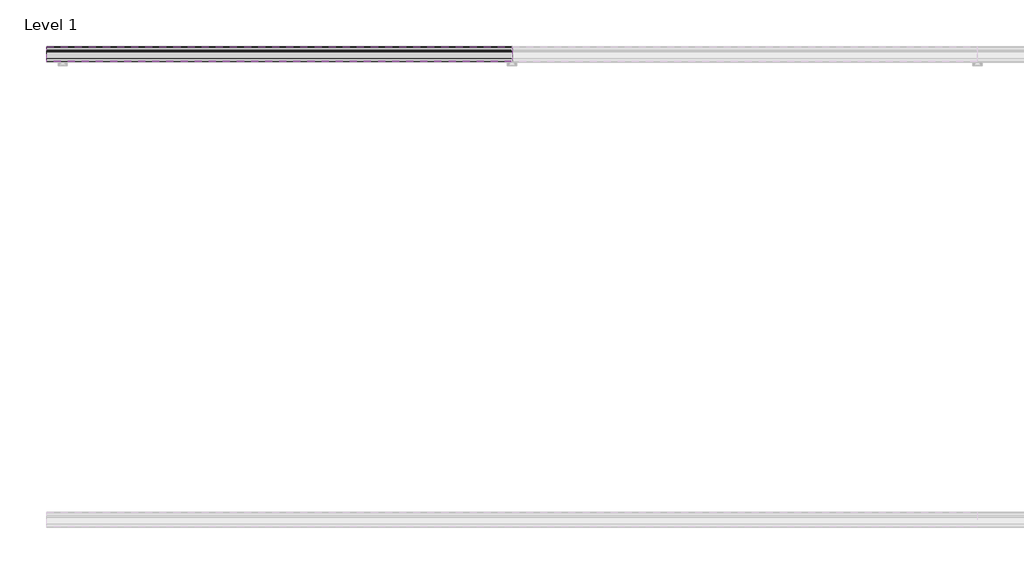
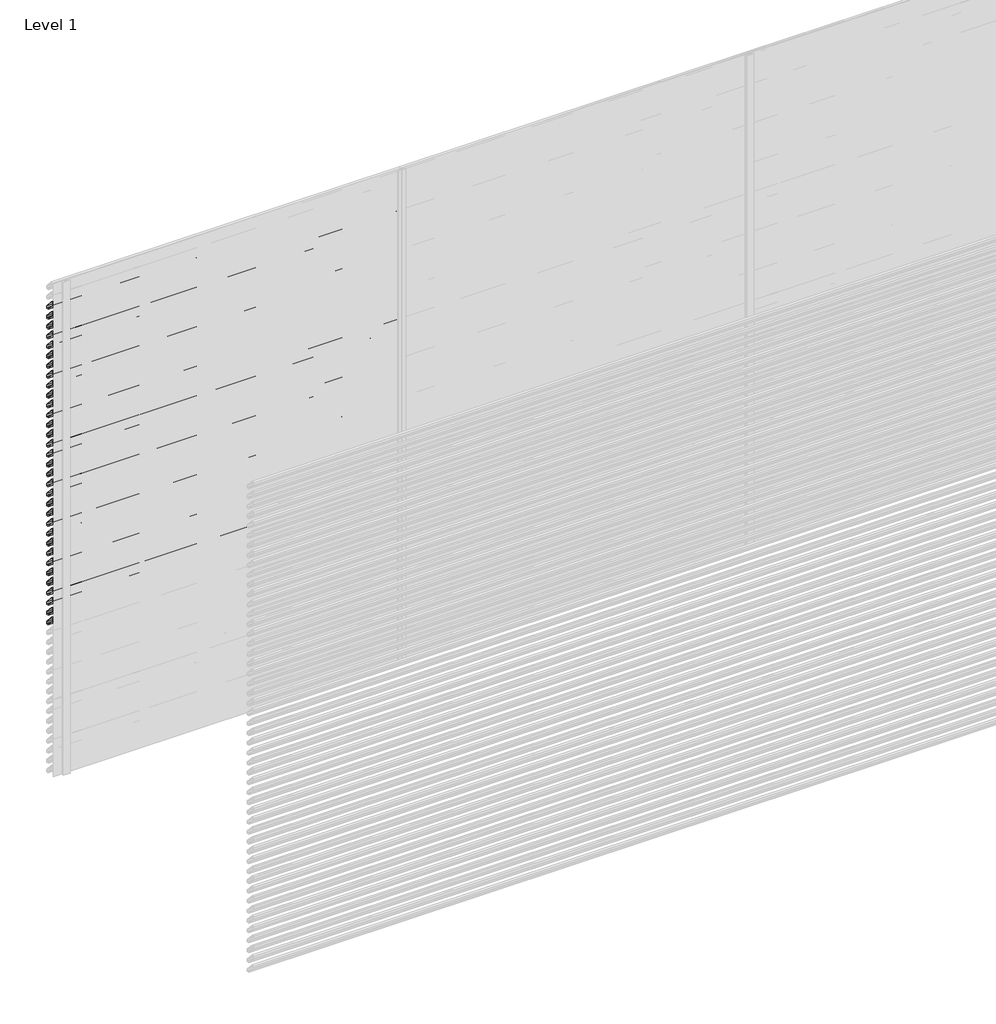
# One storey, part 96 of 153: 33 proxies.
"""IFC4 building model written with IfcOpenShell, lengths in millimetres."""

from ifc_helpers import new_model, si_unit, point, frame, frame_2d, origin, place, context, project, spatial, polyline, circle_curve, trimmed, segment, composite_curve, outline, extrude, element, save

model = new_model("IFC4")

# Units and contexts
model_context = context("Model", 3, world=origin())
ifc_project = project(units=[si_unit("LENGTHUNIT", "METRE", prefix="MILLI")], contexts=[model_context])

# Site, building, storey
site = spatial("IfcSite", under=ifc_project)
building = spatial("IfcBuilding", under=site)
storey = spatial("IfcBuildingStorey", under=building, Name="Level 1", Elevation=0.0)

# Proxies
placement = place(None, origin())
element("IfcBuildingElementProxy", 1, Name="Wall Sweeps", at=placement, inside=storey, context=model_context, shape_type="SweptSolid", body=[
    extrude(outline(composite_curve([segment(polyline([(43985.0540136, 2880.0), (43999.874191, 2878.7034025), (44049.0540136, 2825.0102749), (44049.0540136, 2813.6108187)]), True, "CONTINUOUS"), segment(trimmed(circle_curve(frame_2d((44045.7883652, 2813.897153)), 3.2781774), [point((44049.0540136, 2813.6108187))], [point((44046.4639442, 2810.6893438))], False, "CARTESIAN"), True, "CONTINUOUS"), segment(polyline([(44046.4639442, 2810.6893438), (44034.1895723, 2811.6282758), (43985.0540136, 2865.2730773), (43985.0540136, 2880.0)]), True, "CONTINUOUS")], self_intersect=False), holes=[composite_curve([segment(polyline([(43999.1621773, 2877.2599659), (43986.5540136, 2878.3630372), (43986.5540136, 2865.856213), (44034.8952036, 2813.0786805), (44046.3312542, 2812.2038762)]), True, "CONTINUOUS"), segment(trimmed(circle_curve(frame_2d((44045.7883652, 2813.897153)), 1.7781774), [point((44046.3312542, 2812.2038762))], [point((44047.5540136, 2813.6864389))], True, "CARTESIAN"), True, "CONTINUOUS"), segment(polyline([(44047.5540136, 2813.6864389), (44047.5540136, 2824.4271392), (43999.1621773, 2877.2599659)]), True, "CONTINUOUS")], self_intersect=False)]), frame((44966.6208097, 0.0, 0.0), z_axis=(1.0, 0.0, 0.0), x_axis=(0.0, 1.0, 0.0)), (0.0, 0.0, 1.0), 2000.0000001),
])
element("IfcBuildingElementProxy", 2, Name="Wall Sweeps", at=placement, inside=storey, context=model_context, shape_type="SweptSolid", body=[
    extrude(outline(composite_curve([segment(polyline([(43985.0540136, 2820.0), (43999.874191, 2818.7034025), (44049.0540136, 2765.0102749), (44049.0540136, 2753.6108187)]), True, "CONTINUOUS"), segment(trimmed(circle_curve(frame_2d((44045.7883652, 2753.897153)), 3.2781774), [point((44049.0540136, 2753.6108187))], [point((44046.4639442, 2750.6893438))], False, "CARTESIAN"), True, "CONTINUOUS"), segment(polyline([(44046.4639442, 2750.6893438), (44034.1895723, 2751.6282758), (43985.0540136, 2805.2730773), (43985.0540136, 2820.0)]), True, "CONTINUOUS")], self_intersect=False), holes=[composite_curve([segment(polyline([(43999.1621773, 2817.2599659), (43986.5540136, 2818.3630372), (43986.5540136, 2805.856213), (44034.8952036, 2753.0786805), (44046.3312542, 2752.2038762)]), True, "CONTINUOUS"), segment(trimmed(circle_curve(frame_2d((44045.7883652, 2753.897153)), 1.7781774), [point((44046.3312542, 2752.2038762))], [point((44047.5540136, 2753.6864389))], True, "CARTESIAN"), True, "CONTINUOUS"), segment(polyline([(44047.5540136, 2753.6864389), (44047.5540136, 2764.4271392), (43999.1621773, 2817.2599659)]), True, "CONTINUOUS")], self_intersect=False)]), frame((44966.6208097, 0.0, 0.0), z_axis=(1.0, 0.0, 0.0), x_axis=(0.0, 1.0, 0.0)), (0.0, 0.0, 1.0), 2000.0000001),
])
element("IfcBuildingElementProxy", 3, Name="Wall Sweeps", at=placement, inside=storey, context=model_context, shape_type="SweptSolid", body=[
    extrude(outline(composite_curve([segment(polyline([(43985.0540136, 2760.0), (43999.874191, 2758.7034025), (44049.0540136, 2705.0102749), (44049.0540136, 2693.6108187)]), True, "CONTINUOUS"), segment(trimmed(circle_curve(frame_2d((44045.7883652, 2693.897153)), 3.2781774), [point((44049.0540136, 2693.6108187))], [point((44046.4639442, 2690.6893438))], False, "CARTESIAN"), True, "CONTINUOUS"), segment(polyline([(44046.4639442, 2690.6893438), (44034.1895723, 2691.6282758), (43985.0540136, 2745.2730773), (43985.0540136, 2760.0)]), True, "CONTINUOUS")], self_intersect=False), holes=[composite_curve([segment(polyline([(43999.1621773, 2757.2599659), (43986.5540136, 2758.3630372), (43986.5540136, 2745.856213), (44034.8952036, 2693.0786805), (44046.3312542, 2692.2038762)]), True, "CONTINUOUS"), segment(trimmed(circle_curve(frame_2d((44045.7883652, 2693.897153)), 1.7781774), [point((44046.3312542, 2692.2038762))], [point((44047.5540136, 2693.6864389))], True, "CARTESIAN"), True, "CONTINUOUS"), segment(polyline([(44047.5540136, 2693.6864389), (44047.5540136, 2704.4271392), (43999.1621773, 2757.2599659)]), True, "CONTINUOUS")], self_intersect=False)]), frame((44966.6208097, 0.0, 0.0), z_axis=(1.0, 0.0, 0.0), x_axis=(0.0, 1.0, 0.0)), (0.0, 0.0, 1.0), 2000.0000001),
])
element("IfcBuildingElementProxy", 4, Name="Wall Sweeps", at=placement, inside=storey, context=model_context, shape_type="SweptSolid", body=[
    extrude(outline(composite_curve([segment(polyline([(43985.0540136, 2700.0), (43999.874191, 2698.7034025), (44049.0540136, 2645.0102749), (44049.0540136, 2633.6108187)]), True, "CONTINUOUS"), segment(trimmed(circle_curve(frame_2d((44045.7883652, 2633.897153)), 3.2781774), [point((44049.0540136, 2633.6108187))], [point((44046.4639442, 2630.6893438))], False, "CARTESIAN"), True, "CONTINUOUS"), segment(polyline([(44046.4639442, 2630.6893438), (44034.1895723, 2631.6282758), (43985.0540136, 2685.2730773), (43985.0540136, 2700.0)]), True, "CONTINUOUS")], self_intersect=False), holes=[composite_curve([segment(polyline([(43999.1621773, 2697.2599659), (43986.5540136, 2698.3630372), (43986.5540136, 2685.856213), (44034.8952036, 2633.0786805), (44046.3312542, 2632.2038762)]), True, "CONTINUOUS"), segment(trimmed(circle_curve(frame_2d((44045.7883652, 2633.897153)), 1.7781774), [point((44046.3312542, 2632.2038762))], [point((44047.5540136, 2633.6864389))], True, "CARTESIAN"), True, "CONTINUOUS"), segment(polyline([(44047.5540136, 2633.6864389), (44047.5540136, 2644.4271392), (43999.1621773, 2697.2599659)]), True, "CONTINUOUS")], self_intersect=False)]), frame((44966.6208097, 0.0, 0.0), z_axis=(1.0, 0.0, 0.0), x_axis=(0.0, 1.0, 0.0)), (0.0, 0.0, 1.0), 2000.0000001),
])
element("IfcBuildingElementProxy", 5, Name="Wall Sweeps", at=placement, inside=storey, context=model_context, shape_type="SweptSolid", body=[
    extrude(outline(composite_curve([segment(polyline([(43985.0540136, 2640.0), (43999.874191, 2638.7034025), (44049.0540136, 2585.0102749), (44049.0540136, 2573.6108187)]), True, "CONTINUOUS"), segment(trimmed(circle_curve(frame_2d((44045.7883652, 2573.897153)), 3.2781774), [point((44049.0540136, 2573.6108187))], [point((44046.4639442, 2570.6893438))], False, "CARTESIAN"), True, "CONTINUOUS"), segment(polyline([(44046.4639442, 2570.6893438), (44034.1895723, 2571.6282758), (43985.0540136, 2625.2730773), (43985.0540136, 2640.0)]), True, "CONTINUOUS")], self_intersect=False), holes=[composite_curve([segment(polyline([(43999.1621773, 2637.2599659), (43986.5540136, 2638.3630372), (43986.5540136, 2625.856213), (44034.8952036, 2573.0786805), (44046.3312542, 2572.2038762)]), True, "CONTINUOUS"), segment(trimmed(circle_curve(frame_2d((44045.7883652, 2573.897153)), 1.7781774), [point((44046.3312542, 2572.2038762))], [point((44047.5540136, 2573.6864389))], True, "CARTESIAN"), True, "CONTINUOUS"), segment(polyline([(44047.5540136, 2573.6864389), (44047.5540136, 2584.4271392), (43999.1621773, 2637.2599659)]), True, "CONTINUOUS")], self_intersect=False)]), frame((44966.6208097, 0.0, 0.0), z_axis=(1.0, 0.0, 0.0), x_axis=(0.0, 1.0, 0.0)), (0.0, 0.0, 1.0), 2000.0000001),
])
element("IfcBuildingElementProxy", 6, Name="Wall Sweeps", at=placement, inside=storey, context=model_context, shape_type="SweptSolid", body=[
    extrude(outline(composite_curve([segment(polyline([(43985.0540136, 2580.0), (43999.874191, 2578.7034025), (44049.0540136, 2525.0102749), (44049.0540136, 2513.6108187)]), True, "CONTINUOUS"), segment(trimmed(circle_curve(frame_2d((44045.7883652, 2513.897153)), 3.2781774), [point((44049.0540136, 2513.6108187))], [point((44046.4639442, 2510.6893438))], False, "CARTESIAN"), True, "CONTINUOUS"), segment(polyline([(44046.4639442, 2510.6893438), (44034.1895723, 2511.6282758), (43985.0540136, 2565.2730773), (43985.0540136, 2580.0)]), True, "CONTINUOUS")], self_intersect=False), holes=[composite_curve([segment(polyline([(43999.1621773, 2577.2599659), (43986.5540136, 2578.3630372), (43986.5540136, 2565.856213), (44034.8952036, 2513.0786805), (44046.3312542, 2512.2038762)]), True, "CONTINUOUS"), segment(trimmed(circle_curve(frame_2d((44045.7883652, 2513.897153)), 1.7781774), [point((44046.3312542, 2512.2038762))], [point((44047.5540136, 2513.6864389))], True, "CARTESIAN"), True, "CONTINUOUS"), segment(polyline([(44047.5540136, 2513.6864389), (44047.5540136, 2524.4271392), (43999.1621773, 2577.2599659)]), True, "CONTINUOUS")], self_intersect=False)]), frame((44966.6208097, 0.0, 0.0), z_axis=(1.0, 0.0, 0.0), x_axis=(0.0, 1.0, 0.0)), (0.0, 0.0, 1.0), 2000.0000001),
])
element("IfcBuildingElementProxy", 7, Name="Wall Sweeps", at=placement, inside=storey, context=model_context, shape_type="SweptSolid", body=[
    extrude(outline(composite_curve([segment(polyline([(43985.0540136, 2520.0), (43999.874191, 2518.7034025), (44049.0540136, 2465.0102749), (44049.0540136, 2453.6108187)]), True, "CONTINUOUS"), segment(trimmed(circle_curve(frame_2d((44045.7883652, 2453.897153)), 3.2781774), [point((44049.0540136, 2453.6108187))], [point((44046.4639442, 2450.6893438))], False, "CARTESIAN"), True, "CONTINUOUS"), segment(polyline([(44046.4639442, 2450.6893438), (44034.1895723, 2451.6282758), (43985.0540136, 2505.2730773), (43985.0540136, 2520.0)]), True, "CONTINUOUS")], self_intersect=False), holes=[composite_curve([segment(polyline([(43999.1621773, 2517.2599659), (43986.5540136, 2518.3630372), (43986.5540136, 2505.856213), (44034.8952036, 2453.0786805), (44046.3312542, 2452.2038762)]), True, "CONTINUOUS"), segment(trimmed(circle_curve(frame_2d((44045.7883652, 2453.897153)), 1.7781774), [point((44046.3312542, 2452.2038762))], [point((44047.5540136, 2453.6864389))], True, "CARTESIAN"), True, "CONTINUOUS"), segment(polyline([(44047.5540136, 2453.6864389), (44047.5540136, 2464.4271392), (43999.1621773, 2517.2599659)]), True, "CONTINUOUS")], self_intersect=False)]), frame((44966.6208097, 0.0, 0.0), z_axis=(1.0, 0.0, 0.0), x_axis=(0.0, 1.0, 0.0)), (0.0, 0.0, 1.0), 2000.0000001),
])
element("IfcBuildingElementProxy", 8, Name="Wall Sweeps", at=placement, inside=storey, context=model_context, shape_type="SweptSolid", body=[
    extrude(outline(composite_curve([segment(polyline([(43985.0540136, 2460.0), (43999.874191, 2458.7034025), (44049.0540136, 2405.0102749), (44049.0540136, 2393.6108187)]), True, "CONTINUOUS"), segment(trimmed(circle_curve(frame_2d((44045.7883652, 2393.897153)), 3.2781774), [point((44049.0540136, 2393.6108187))], [point((44046.4639442, 2390.6893438))], False, "CARTESIAN"), True, "CONTINUOUS"), segment(polyline([(44046.4639442, 2390.6893438), (44034.1895723, 2391.6282758), (43985.0540136, 2445.2730773), (43985.0540136, 2460.0)]), True, "CONTINUOUS")], self_intersect=False), holes=[composite_curve([segment(polyline([(43999.1621773, 2457.2599659), (43986.5540136, 2458.3630372), (43986.5540136, 2445.856213), (44034.8952036, 2393.0786805), (44046.3312542, 2392.2038762)]), True, "CONTINUOUS"), segment(trimmed(circle_curve(frame_2d((44045.7883652, 2393.897153)), 1.7781774), [point((44046.3312542, 2392.2038762))], [point((44047.5540136, 2393.6864389))], True, "CARTESIAN"), True, "CONTINUOUS"), segment(polyline([(44047.5540136, 2393.6864389), (44047.5540136, 2404.4271392), (43999.1621773, 2457.2599659)]), True, "CONTINUOUS")], self_intersect=False)]), frame((44966.6208097, 0.0, 0.0), z_axis=(1.0, 0.0, 0.0), x_axis=(0.0, 1.0, 0.0)), (0.0, 0.0, 1.0), 2000.0000001),
])
element("IfcBuildingElementProxy", 9, Name="Wall Sweeps", at=placement, inside=storey, context=model_context, shape_type="SweptSolid", body=[
    extrude(outline(composite_curve([segment(polyline([(43985.0540136, 2400.0), (43999.874191, 2398.7034025), (44049.0540136, 2345.0102749), (44049.0540136, 2333.6108187)]), True, "CONTINUOUS"), segment(trimmed(circle_curve(frame_2d((44045.7883652, 2333.897153)), 3.2781774), [point((44049.0540136, 2333.6108187))], [point((44046.4639442, 2330.6893438))], False, "CARTESIAN"), True, "CONTINUOUS"), segment(polyline([(44046.4639442, 2330.6893438), (44034.1895723, 2331.6282758), (43985.0540136, 2385.2730773), (43985.0540136, 2400.0)]), True, "CONTINUOUS")], self_intersect=False), holes=[composite_curve([segment(polyline([(43999.1621773, 2397.2599659), (43986.5540136, 2398.3630372), (43986.5540136, 2385.856213), (44034.8952036, 2333.0786805), (44046.3312542, 2332.2038762)]), True, "CONTINUOUS"), segment(trimmed(circle_curve(frame_2d((44045.7883652, 2333.897153)), 1.7781774), [point((44046.3312542, 2332.2038762))], [point((44047.5540136, 2333.6864389))], True, "CARTESIAN"), True, "CONTINUOUS"), segment(polyline([(44047.5540136, 2333.6864389), (44047.5540136, 2344.4271392), (43999.1621773, 2397.2599659)]), True, "CONTINUOUS")], self_intersect=False)]), frame((44966.6208097, 0.0, 0.0), z_axis=(1.0, 0.0, 0.0), x_axis=(0.0, 1.0, 0.0)), (0.0, 0.0, 1.0), 2000.0000001),
])
element("IfcBuildingElementProxy", 10, Name="Wall Sweeps", at=placement, inside=storey, context=model_context, shape_type="SweptSolid", body=[
    extrude(outline(composite_curve([segment(polyline([(43985.0540136, 2340.0), (43999.874191, 2338.7034025), (44049.0540136, 2285.0102749), (44049.0540136, 2273.6108187)]), True, "CONTINUOUS"), segment(trimmed(circle_curve(frame_2d((44045.7883652, 2273.897153)), 3.2781774), [point((44049.0540136, 2273.6108187))], [point((44046.4639442, 2270.6893438))], False, "CARTESIAN"), True, "CONTINUOUS"), segment(polyline([(44046.4639442, 2270.6893438), (44034.1895723, 2271.6282758), (43985.0540136, 2325.2730773), (43985.0540136, 2340.0)]), True, "CONTINUOUS")], self_intersect=False), holes=[composite_curve([segment(polyline([(43999.1621773, 2337.2599659), (43986.5540136, 2338.3630372), (43986.5540136, 2325.856213), (44034.8952036, 2273.0786805), (44046.3312542, 2272.2038762)]), True, "CONTINUOUS"), segment(trimmed(circle_curve(frame_2d((44045.7883652, 2273.897153)), 1.7781774), [point((44046.3312542, 2272.2038762))], [point((44047.5540136, 2273.6864389))], True, "CARTESIAN"), True, "CONTINUOUS"), segment(polyline([(44047.5540136, 2273.6864389), (44047.5540136, 2284.4271392), (43999.1621773, 2337.2599659)]), True, "CONTINUOUS")], self_intersect=False)]), frame((44966.6208097, 0.0, 0.0), z_axis=(1.0, 0.0, 0.0), x_axis=(0.0, 1.0, 0.0)), (0.0, 0.0, 1.0), 2000.0000001),
])
element("IfcBuildingElementProxy", 11, Name="Wall Sweeps", at=placement, inside=storey, context=model_context, shape_type="SweptSolid", body=[
    extrude(outline(composite_curve([segment(polyline([(43985.0540136, 2280.0), (43999.874191, 2278.7034025), (44049.0540136, 2225.0102749), (44049.0540136, 2213.6108187)]), True, "CONTINUOUS"), segment(trimmed(circle_curve(frame_2d((44045.7883652, 2213.897153)), 3.2781774), [point((44049.0540136, 2213.6108187))], [point((44046.4639442, 2210.6893438))], False, "CARTESIAN"), True, "CONTINUOUS"), segment(polyline([(44046.4639442, 2210.6893438), (44034.1895723, 2211.6282758), (43985.0540136, 2265.2730773), (43985.0540136, 2280.0)]), True, "CONTINUOUS")], self_intersect=False), holes=[composite_curve([segment(polyline([(43999.1621773, 2277.2599659), (43986.5540136, 2278.3630372), (43986.5540136, 2265.856213), (44034.8952036, 2213.0786805), (44046.3312542, 2212.2038762)]), True, "CONTINUOUS"), segment(trimmed(circle_curve(frame_2d((44045.7883652, 2213.897153)), 1.7781774), [point((44046.3312542, 2212.2038762))], [point((44047.5540136, 2213.6864389))], True, "CARTESIAN"), True, "CONTINUOUS"), segment(polyline([(44047.5540136, 2213.6864389), (44047.5540136, 2224.4271392), (43999.1621773, 2277.2599659)]), True, "CONTINUOUS")], self_intersect=False)]), frame((44966.6208097, 0.0, 0.0), z_axis=(1.0, 0.0, 0.0), x_axis=(0.0, 1.0, 0.0)), (0.0, 0.0, 1.0), 2000.0000001),
])
element("IfcBuildingElementProxy", 12, Name="Wall Sweeps", at=placement, inside=storey, context=model_context, shape_type="SweptSolid", body=[
    extrude(outline(composite_curve([segment(polyline([(43985.0540136, 2220.0), (43999.874191, 2218.7034025), (44049.0540136, 2165.0102749), (44049.0540136, 2153.6108187)]), True, "CONTINUOUS"), segment(trimmed(circle_curve(frame_2d((44045.7883652, 2153.897153)), 3.2781774), [point((44049.0540136, 2153.6108187))], [point((44046.4639442, 2150.6893438))], False, "CARTESIAN"), True, "CONTINUOUS"), segment(polyline([(44046.4639442, 2150.6893438), (44034.1895723, 2151.6282758), (43985.0540136, 2205.2730773), (43985.0540136, 2220.0)]), True, "CONTINUOUS")], self_intersect=False), holes=[composite_curve([segment(polyline([(43999.1621773, 2217.2599659), (43986.5540136, 2218.3630372), (43986.5540136, 2205.856213), (44034.8952036, 2153.0786805), (44046.3312542, 2152.2038762)]), True, "CONTINUOUS"), segment(trimmed(circle_curve(frame_2d((44045.7883652, 2153.897153)), 1.7781774), [point((44046.3312542, 2152.2038762))], [point((44047.5540136, 2153.6864389))], True, "CARTESIAN"), True, "CONTINUOUS"), segment(polyline([(44047.5540136, 2153.6864389), (44047.5540136, 2164.4271392), (43999.1621773, 2217.2599659)]), True, "CONTINUOUS")], self_intersect=False)]), frame((44966.6208097, 0.0, 0.0), z_axis=(1.0, 0.0, 0.0), x_axis=(0.0, 1.0, 0.0)), (0.0, 0.0, 1.0), 2000.0000001),
])
element("IfcBuildingElementProxy", 13, Name="Wall Sweeps", at=placement, inside=storey, context=model_context, shape_type="SweptSolid", body=[
    extrude(outline(composite_curve([segment(polyline([(43985.0540136, 2160.0), (43999.874191, 2158.7034025), (44049.0540136, 2105.0102749), (44049.0540136, 2093.6108187)]), True, "CONTINUOUS"), segment(trimmed(circle_curve(frame_2d((44045.7883652, 2093.897153)), 3.2781774), [point((44049.0540136, 2093.6108187))], [point((44046.4639442, 2090.6893438))], False, "CARTESIAN"), True, "CONTINUOUS"), segment(polyline([(44046.4639442, 2090.6893438), (44034.1895723, 2091.6282758), (43985.0540136, 2145.2730773), (43985.0540136, 2160.0)]), True, "CONTINUOUS")], self_intersect=False), holes=[composite_curve([segment(polyline([(43999.1621773, 2157.2599659), (43986.5540136, 2158.3630372), (43986.5540136, 2145.856213), (44034.8952036, 2093.0786805), (44046.3312542, 2092.2038762)]), True, "CONTINUOUS"), segment(trimmed(circle_curve(frame_2d((44045.7883652, 2093.897153)), 1.7781774), [point((44046.3312542, 2092.2038762))], [point((44047.5540136, 2093.6864389))], True, "CARTESIAN"), True, "CONTINUOUS"), segment(polyline([(44047.5540136, 2093.6864389), (44047.5540136, 2104.4271392), (43999.1621773, 2157.2599659)]), True, "CONTINUOUS")], self_intersect=False)]), frame((44966.6208097, 0.0, 0.0), z_axis=(1.0, 0.0, 0.0), x_axis=(0.0, 1.0, 0.0)), (0.0, 0.0, 1.0), 2000.0000001),
])
element("IfcBuildingElementProxy", 14, Name="Wall Sweeps", at=placement, inside=storey, context=model_context, shape_type="SweptSolid", body=[
    extrude(outline(composite_curve([segment(polyline([(43985.0540136, 2100.0), (43999.874191, 2098.7034025), (44049.0540136, 2045.0102749), (44049.0540136, 2033.6108187)]), True, "CONTINUOUS"), segment(trimmed(circle_curve(frame_2d((44045.7883652, 2033.897153)), 3.2781774), [point((44049.0540136, 2033.6108187))], [point((44046.4639442, 2030.6893438))], False, "CARTESIAN"), True, "CONTINUOUS"), segment(polyline([(44046.4639442, 2030.6893438), (44034.1895723, 2031.6282758), (43985.0540136, 2085.2730773), (43985.0540136, 2100.0)]), True, "CONTINUOUS")], self_intersect=False), holes=[composite_curve([segment(polyline([(43999.1621773, 2097.2599659), (43986.5540136, 2098.3630372), (43986.5540136, 2085.856213), (44034.8952036, 2033.0786805), (44046.3312542, 2032.2038762)]), True, "CONTINUOUS"), segment(trimmed(circle_curve(frame_2d((44045.7883652, 2033.897153)), 1.7781774), [point((44046.3312542, 2032.2038762))], [point((44047.5540136, 2033.6864389))], True, "CARTESIAN"), True, "CONTINUOUS"), segment(polyline([(44047.5540136, 2033.6864389), (44047.5540136, 2044.4271392), (43999.1621773, 2097.2599659)]), True, "CONTINUOUS")], self_intersect=False)]), frame((44966.6208097, 0.0, 0.0), z_axis=(1.0, 0.0, 0.0), x_axis=(0.0, 1.0, 0.0)), (0.0, 0.0, 1.0), 2000.0000001),
])
element("IfcBuildingElementProxy", 15, Name="Wall Sweeps", at=placement, inside=storey, context=model_context, shape_type="SweptSolid", body=[
    extrude(outline(composite_curve([segment(polyline([(43985.0540136, 2040.0), (43999.874191, 2038.7034025), (44049.0540136, 1985.0102749), (44049.0540136, 1973.6108187)]), True, "CONTINUOUS"), segment(trimmed(circle_curve(frame_2d((44045.7883652, 1973.897153)), 3.2781774), [point((44049.0540136, 1973.6108187))], [point((44046.4639442, 1970.6893438))], False, "CARTESIAN"), True, "CONTINUOUS"), segment(polyline([(44046.4639442, 1970.6893438), (44034.1895723, 1971.6282758), (43985.0540136, 2025.2730773), (43985.0540136, 2040.0)]), True, "CONTINUOUS")], self_intersect=False), holes=[composite_curve([segment(polyline([(43999.1621773, 2037.2599659), (43986.5540136, 2038.3630372), (43986.5540136, 2025.856213), (44034.8952036, 1973.0786805), (44046.3312542, 1972.2038762)]), True, "CONTINUOUS"), segment(trimmed(circle_curve(frame_2d((44045.7883652, 1973.897153)), 1.7781774), [point((44046.3312542, 1972.2038762))], [point((44047.5540136, 1973.6864389))], True, "CARTESIAN"), True, "CONTINUOUS"), segment(polyline([(44047.5540136, 1973.6864389), (44047.5540136, 1984.4271392), (43999.1621773, 2037.2599659)]), True, "CONTINUOUS")], self_intersect=False)]), frame((44966.6208097, 0.0, 0.0), z_axis=(1.0, 0.0, 0.0), x_axis=(0.0, 1.0, 0.0)), (0.0, 0.0, 1.0), 2000.0000001),
])
element("IfcBuildingElementProxy", 16, Name="Wall Sweeps", at=placement, inside=storey, context=model_context, shape_type="SweptSolid", body=[
    extrude(outline(composite_curve([segment(polyline([(43985.0540136, 1980.0), (43999.874191, 1978.7034025), (44049.0540136, 1925.0102749), (44049.0540136, 1913.6108187)]), True, "CONTINUOUS"), segment(trimmed(circle_curve(frame_2d((44045.7883652, 1913.897153)), 3.2781774), [point((44049.0540136, 1913.6108187))], [point((44046.4639442, 1910.6893438))], False, "CARTESIAN"), True, "CONTINUOUS"), segment(polyline([(44046.4639442, 1910.6893438), (44034.1895723, 1911.6282758), (43985.0540136, 1965.2730773), (43985.0540136, 1980.0)]), True, "CONTINUOUS")], self_intersect=False), holes=[composite_curve([segment(polyline([(43999.1621773, 1977.2599659), (43986.5540136, 1978.3630372), (43986.5540136, 1965.856213), (44034.8952036, 1913.0786805), (44046.3312542, 1912.2038762)]), True, "CONTINUOUS"), segment(trimmed(circle_curve(frame_2d((44045.7883652, 1913.897153)), 1.7781774), [point((44046.3312542, 1912.2038762))], [point((44047.5540136, 1913.6864389))], True, "CARTESIAN"), True, "CONTINUOUS"), segment(polyline([(44047.5540136, 1913.6864389), (44047.5540136, 1924.4271392), (43999.1621773, 1977.2599659)]), True, "CONTINUOUS")], self_intersect=False)]), frame((44966.6208097, 0.0, 0.0), z_axis=(1.0, 0.0, 0.0), x_axis=(0.0, 1.0, 0.0)), (0.0, 0.0, 1.0), 2000.0000001),
])
element("IfcBuildingElementProxy", 17, Name="Wall Sweeps", at=placement, inside=storey, context=model_context, shape_type="SweptSolid", body=[
    extrude(outline(composite_curve([segment(polyline([(43985.0540136, 1920.0), (43999.874191, 1918.7034025), (44049.0540136, 1865.0102749), (44049.0540136, 1853.6108187)]), True, "CONTINUOUS"), segment(trimmed(circle_curve(frame_2d((44045.7883652, 1853.897153)), 3.2781774), [point((44049.0540136, 1853.6108187))], [point((44046.4639442, 1850.6893438))], False, "CARTESIAN"), True, "CONTINUOUS"), segment(polyline([(44046.4639442, 1850.6893438), (44034.1895723, 1851.6282758), (43985.0540136, 1905.2730773), (43985.0540136, 1920.0)]), True, "CONTINUOUS")], self_intersect=False), holes=[composite_curve([segment(polyline([(43999.1621773, 1917.2599659), (43986.5540136, 1918.3630372), (43986.5540136, 1905.856213), (44034.8952036, 1853.0786805), (44046.3312542, 1852.2038762)]), True, "CONTINUOUS"), segment(trimmed(circle_curve(frame_2d((44045.7883652, 1853.897153)), 1.7781774), [point((44046.3312542, 1852.2038762))], [point((44047.5540136, 1853.6864389))], True, "CARTESIAN"), True, "CONTINUOUS"), segment(polyline([(44047.5540136, 1853.6864389), (44047.5540136, 1864.4271392), (43999.1621773, 1917.2599659)]), True, "CONTINUOUS")], self_intersect=False)]), frame((44966.6208097, 0.0, 0.0), z_axis=(1.0, 0.0, 0.0), x_axis=(0.0, 1.0, 0.0)), (0.0, 0.0, 1.0), 2000.0000001),
])
element("IfcBuildingElementProxy", 18, Name="Wall Sweeps", at=placement, inside=storey, context=model_context, shape_type="SweptSolid", body=[
    extrude(outline(composite_curve([segment(polyline([(43985.0540136, 1860.0), (43999.874191, 1858.7034025), (44049.0540136, 1805.0102749), (44049.0540136, 1793.6108187)]), True, "CONTINUOUS"), segment(trimmed(circle_curve(frame_2d((44045.7883652, 1793.897153)), 3.2781774), [point((44049.0540136, 1793.6108187))], [point((44046.4639442, 1790.6893438))], False, "CARTESIAN"), True, "CONTINUOUS"), segment(polyline([(44046.4639442, 1790.6893438), (44034.1895723, 1791.6282758), (43985.0540136, 1845.2730773), (43985.0540136, 1860.0)]), True, "CONTINUOUS")], self_intersect=False), holes=[composite_curve([segment(polyline([(43999.1621773, 1857.2599659), (43986.5540136, 1858.3630372), (43986.5540136, 1845.856213), (44034.8952036, 1793.0786805), (44046.3312542, 1792.2038762)]), True, "CONTINUOUS"), segment(trimmed(circle_curve(frame_2d((44045.7883652, 1793.897153)), 1.7781774), [point((44046.3312542, 1792.2038762))], [point((44047.5540136, 1793.6864389))], True, "CARTESIAN"), True, "CONTINUOUS"), segment(polyline([(44047.5540136, 1793.6864389), (44047.5540136, 1804.4271392), (43999.1621773, 1857.2599659)]), True, "CONTINUOUS")], self_intersect=False)]), frame((44966.6208097, 0.0, 0.0), z_axis=(1.0, 0.0, 0.0), x_axis=(0.0, 1.0, 0.0)), (0.0, 0.0, 1.0), 2000.0000001),
])
element("IfcBuildingElementProxy", 19, Name="Wall Sweeps", at=placement, inside=storey, context=model_context, shape_type="SweptSolid", body=[
    extrude(outline(composite_curve([segment(polyline([(43985.0540136, 1800.0), (43999.874191, 1798.7034025), (44049.0540136, 1745.0102749), (44049.0540136, 1733.6108187)]), True, "CONTINUOUS"), segment(trimmed(circle_curve(frame_2d((44045.7883652, 1733.897153)), 3.2781774), [point((44049.0540136, 1733.6108187))], [point((44046.4639442, 1730.6893438))], False, "CARTESIAN"), True, "CONTINUOUS"), segment(polyline([(44046.4639442, 1730.6893438), (44034.1895723, 1731.6282758), (43985.0540136, 1785.2730773), (43985.0540136, 1800.0)]), True, "CONTINUOUS")], self_intersect=False), holes=[composite_curve([segment(polyline([(43999.1621773, 1797.2599659), (43986.5540136, 1798.3630372), (43986.5540136, 1785.856213), (44034.8952036, 1733.0786805), (44046.3312542, 1732.2038762)]), True, "CONTINUOUS"), segment(trimmed(circle_curve(frame_2d((44045.7883652, 1733.897153)), 1.7781774), [point((44046.3312542, 1732.2038762))], [point((44047.5540136, 1733.6864389))], True, "CARTESIAN"), True, "CONTINUOUS"), segment(polyline([(44047.5540136, 1733.6864389), (44047.5540136, 1744.4271392), (43999.1621773, 1797.2599659)]), True, "CONTINUOUS")], self_intersect=False)]), frame((44966.6208097, 0.0, 0.0), z_axis=(1.0, 0.0, 0.0), x_axis=(0.0, 1.0, 0.0)), (0.0, 0.0, 1.0), 2000.0000001),
])
element("IfcBuildingElementProxy", 20, Name="Wall Sweeps", at=placement, inside=storey, context=model_context, shape_type="SweptSolid", body=[
    extrude(outline(composite_curve([segment(polyline([(43985.0540136, 1740.0), (43999.874191, 1738.7034025), (44049.0540136, 1685.0102749), (44049.0540136, 1673.6108187)]), True, "CONTINUOUS"), segment(trimmed(circle_curve(frame_2d((44045.7883652, 1673.897153)), 3.2781774), [point((44049.0540136, 1673.6108187))], [point((44046.4639442, 1670.6893438))], False, "CARTESIAN"), True, "CONTINUOUS"), segment(polyline([(44046.4639442, 1670.6893438), (44034.1895723, 1671.6282758), (43985.0540136, 1725.2730773), (43985.0540136, 1740.0)]), True, "CONTINUOUS")], self_intersect=False), holes=[composite_curve([segment(polyline([(43999.1621773, 1737.2599659), (43986.5540136, 1738.3630372), (43986.5540136, 1725.856213), (44034.8952036, 1673.0786805), (44046.3312542, 1672.2038762)]), True, "CONTINUOUS"), segment(trimmed(circle_curve(frame_2d((44045.7883652, 1673.897153)), 1.7781774), [point((44046.3312542, 1672.2038762))], [point((44047.5540136, 1673.6864389))], True, "CARTESIAN"), True, "CONTINUOUS"), segment(polyline([(44047.5540136, 1673.6864389), (44047.5540136, 1684.4271392), (43999.1621773, 1737.2599659)]), True, "CONTINUOUS")], self_intersect=False)]), frame((44966.6208097, 0.0, 0.0), z_axis=(1.0, 0.0, 0.0), x_axis=(0.0, 1.0, 0.0)), (0.0, 0.0, 1.0), 2000.0000001),
])
element("IfcBuildingElementProxy", 21, Name="Wall Sweeps", at=placement, inside=storey, context=model_context, shape_type="SweptSolid", body=[
    extrude(outline(composite_curve([segment(polyline([(43985.0540136, 1680.0), (43999.874191, 1678.7034025), (44049.0540136, 1625.0102749), (44049.0540136, 1613.6108187)]), True, "CONTINUOUS"), segment(trimmed(circle_curve(frame_2d((44045.7883652, 1613.897153)), 3.2781774), [point((44049.0540136, 1613.6108187))], [point((44046.4639442, 1610.6893438))], False, "CARTESIAN"), True, "CONTINUOUS"), segment(polyline([(44046.4639442, 1610.6893438), (44034.1895723, 1611.6282758), (43985.0540136, 1665.2730773), (43985.0540136, 1680.0)]), True, "CONTINUOUS")], self_intersect=False), holes=[composite_curve([segment(polyline([(43999.1621773, 1677.2599659), (43986.5540136, 1678.3630372), (43986.5540136, 1665.856213), (44034.8952036, 1613.0786805), (44046.3312542, 1612.2038762)]), True, "CONTINUOUS"), segment(trimmed(circle_curve(frame_2d((44045.7883652, 1613.897153)), 1.7781774), [point((44046.3312542, 1612.2038762))], [point((44047.5540136, 1613.6864389))], True, "CARTESIAN"), True, "CONTINUOUS"), segment(polyline([(44047.5540136, 1613.6864389), (44047.5540136, 1624.4271392), (43999.1621773, 1677.2599659)]), True, "CONTINUOUS")], self_intersect=False)]), frame((44966.6208097, 0.0, 0.0), z_axis=(1.0, 0.0, 0.0), x_axis=(0.0, 1.0, 0.0)), (0.0, 0.0, 1.0), 2000.0000001),
])
element("IfcBuildingElementProxy", 22, Name="Wall Sweeps", at=placement, inside=storey, context=model_context, shape_type="SweptSolid", body=[
    extrude(outline(composite_curve([segment(polyline([(43985.0540136, 1620.0), (43999.874191, 1618.7034025), (44049.0540136, 1565.0102749), (44049.0540136, 1553.6108187)]), True, "CONTINUOUS"), segment(trimmed(circle_curve(frame_2d((44045.7883652, 1553.897153)), 3.2781774), [point((44049.0540136, 1553.6108187))], [point((44046.4639442, 1550.6893438))], False, "CARTESIAN"), True, "CONTINUOUS"), segment(polyline([(44046.4639442, 1550.6893438), (44034.1895723, 1551.6282758), (43985.0540136, 1605.2730773), (43985.0540136, 1620.0)]), True, "CONTINUOUS")], self_intersect=False), holes=[composite_curve([segment(polyline([(43999.1621773, 1617.2599659), (43986.5540136, 1618.3630372), (43986.5540136, 1605.856213), (44034.8952036, 1553.0786805), (44046.3312542, 1552.2038762)]), True, "CONTINUOUS"), segment(trimmed(circle_curve(frame_2d((44045.7883652, 1553.897153)), 1.7781774), [point((44046.3312542, 1552.2038762))], [point((44047.5540136, 1553.6864389))], True, "CARTESIAN"), True, "CONTINUOUS"), segment(polyline([(44047.5540136, 1553.6864389), (44047.5540136, 1564.4271392), (43999.1621773, 1617.2599659)]), True, "CONTINUOUS")], self_intersect=False)]), frame((44966.6208097, 0.0, 0.0), z_axis=(1.0, 0.0, 0.0), x_axis=(0.0, 1.0, 0.0)), (0.0, 0.0, 1.0), 2000.0000001),
])
element("IfcBuildingElementProxy", 23, Name="Wall Sweeps", at=placement, inside=storey, context=model_context, shape_type="SweptSolid", body=[
    extrude(outline(composite_curve([segment(polyline([(43985.0540136, 1560.0), (43999.874191, 1558.7034025), (44049.0540136, 1505.0102749), (44049.0540136, 1493.6108187)]), True, "CONTINUOUS"), segment(trimmed(circle_curve(frame_2d((44045.7883652, 1493.897153)), 3.2781774), [point((44049.0540136, 1493.6108187))], [point((44046.4639442, 1490.6893438))], False, "CARTESIAN"), True, "CONTINUOUS"), segment(polyline([(44046.4639442, 1490.6893438), (44034.1895723, 1491.6282758), (43985.0540136, 1545.2730773), (43985.0540136, 1560.0)]), True, "CONTINUOUS")], self_intersect=False), holes=[composite_curve([segment(polyline([(43999.1621773, 1557.2599659), (43986.5540136, 1558.3630372), (43986.5540136, 1545.856213), (44034.8952036, 1493.0786805), (44046.3312542, 1492.2038762)]), True, "CONTINUOUS"), segment(trimmed(circle_curve(frame_2d((44045.7883652, 1493.897153)), 1.7781774), [point((44046.3312542, 1492.2038762))], [point((44047.5540136, 1493.6864389))], True, "CARTESIAN"), True, "CONTINUOUS"), segment(polyline([(44047.5540136, 1493.6864389), (44047.5540136, 1504.4271392), (43999.1621773, 1557.2599659)]), True, "CONTINUOUS")], self_intersect=False)]), frame((44966.6208097, 0.0, 0.0), z_axis=(1.0, 0.0, 0.0), x_axis=(0.0, 1.0, 0.0)), (0.0, 0.0, 1.0), 2000.0000001),
])
element("IfcBuildingElementProxy", 24, Name="Wall Sweeps", at=placement, inside=storey, context=model_context, shape_type="SweptSolid", body=[
    extrude(outline(composite_curve([segment(polyline([(43985.0540136, 1500.0), (43999.874191, 1498.7034025), (44049.0540136, 1445.0102749), (44049.0540136, 1433.6108187)]), True, "CONTINUOUS"), segment(trimmed(circle_curve(frame_2d((44045.7883652, 1433.897153)), 3.2781774), [point((44049.0540136, 1433.6108187))], [point((44046.4639442, 1430.6893438))], False, "CARTESIAN"), True, "CONTINUOUS"), segment(polyline([(44046.4639442, 1430.6893438), (44034.1895723, 1431.6282758), (43985.0540136, 1485.2730773), (43985.0540136, 1500.0)]), True, "CONTINUOUS")], self_intersect=False), holes=[composite_curve([segment(polyline([(43999.1621773, 1497.2599659), (43986.5540136, 1498.3630372), (43986.5540136, 1485.856213), (44034.8952036, 1433.0786805), (44046.3312542, 1432.2038762)]), True, "CONTINUOUS"), segment(trimmed(circle_curve(frame_2d((44045.7883652, 1433.897153)), 1.7781774), [point((44046.3312542, 1432.2038762))], [point((44047.5540136, 1433.6864389))], True, "CARTESIAN"), True, "CONTINUOUS"), segment(polyline([(44047.5540136, 1433.6864389), (44047.5540136, 1444.4271392), (43999.1621773, 1497.2599659)]), True, "CONTINUOUS")], self_intersect=False)]), frame((44966.6208097, 0.0, 0.0), z_axis=(1.0, 0.0, 0.0), x_axis=(0.0, 1.0, 0.0)), (0.0, 0.0, 1.0), 2000.0000001),
])
element("IfcBuildingElementProxy", 25, Name="Wall Sweeps", at=placement, inside=storey, context=model_context, shape_type="SweptSolid", body=[
    extrude(outline(composite_curve([segment(polyline([(43985.0540136, 1440.0), (43999.874191, 1438.7034025), (44049.0540136, 1385.0102749), (44049.0540136, 1373.6108187)]), True, "CONTINUOUS"), segment(trimmed(circle_curve(frame_2d((44045.7883652, 1373.897153)), 3.2781774), [point((44049.0540136, 1373.6108187))], [point((44046.4639442, 1370.6893438))], False, "CARTESIAN"), True, "CONTINUOUS"), segment(polyline([(44046.4639442, 1370.6893438), (44034.1895723, 1371.6282758), (43985.0540136, 1425.2730773), (43985.0540136, 1440.0)]), True, "CONTINUOUS")], self_intersect=False), holes=[composite_curve([segment(polyline([(43999.1621773, 1437.2599659), (43986.5540136, 1438.3630372), (43986.5540136, 1425.856213), (44034.8952036, 1373.0786805), (44046.3312542, 1372.2038762)]), True, "CONTINUOUS"), segment(trimmed(circle_curve(frame_2d((44045.7883652, 1373.897153)), 1.7781774), [point((44046.3312542, 1372.2038762))], [point((44047.5540136, 1373.6864389))], True, "CARTESIAN"), True, "CONTINUOUS"), segment(polyline([(44047.5540136, 1373.6864389), (44047.5540136, 1384.4271392), (43999.1621773, 1437.2599659)]), True, "CONTINUOUS")], self_intersect=False)]), frame((44966.6208097, 0.0, 0.0), z_axis=(1.0, 0.0, 0.0), x_axis=(0.0, 1.0, 0.0)), (0.0, 0.0, 1.0), 2000.0000001),
])
element("IfcBuildingElementProxy", 26, Name="Wall Sweeps", at=placement, inside=storey, context=model_context, shape_type="SweptSolid", body=[
    extrude(outline(composite_curve([segment(polyline([(43985.0540136, 1380.0), (43999.874191, 1378.7034025), (44049.0540136, 1325.0102749), (44049.0540136, 1313.6108187)]), True, "CONTINUOUS"), segment(trimmed(circle_curve(frame_2d((44045.7883652, 1313.897153)), 3.2781774), [point((44049.0540136, 1313.6108187))], [point((44046.4639442, 1310.6893438))], False, "CARTESIAN"), True, "CONTINUOUS"), segment(polyline([(44046.4639442, 1310.6893438), (44034.1895723, 1311.6282758), (43985.0540136, 1365.2730773), (43985.0540136, 1380.0)]), True, "CONTINUOUS")], self_intersect=False), holes=[composite_curve([segment(polyline([(43999.1621773, 1377.2599659), (43986.5540136, 1378.3630372), (43986.5540136, 1365.856213), (44034.8952036, 1313.0786805), (44046.3312542, 1312.2038762)]), True, "CONTINUOUS"), segment(trimmed(circle_curve(frame_2d((44045.7883652, 1313.897153)), 1.7781774), [point((44046.3312542, 1312.2038762))], [point((44047.5540136, 1313.6864389))], True, "CARTESIAN"), True, "CONTINUOUS"), segment(polyline([(44047.5540136, 1313.6864389), (44047.5540136, 1324.4271392), (43999.1621773, 1377.2599659)]), True, "CONTINUOUS")], self_intersect=False)]), frame((44966.6208097, 0.0, 0.0), z_axis=(1.0, 0.0, 0.0), x_axis=(0.0, 1.0, 0.0)), (0.0, 0.0, 1.0), 2000.0000001),
])
element("IfcBuildingElementProxy", 27, Name="Wall Sweeps", at=placement, inside=storey, context=model_context, shape_type="SweptSolid", body=[
    extrude(outline(composite_curve([segment(polyline([(43985.0540136, 1320.0), (43999.874191, 1318.7034025), (44049.0540136, 1265.0102749), (44049.0540136, 1253.6108187)]), True, "CONTINUOUS"), segment(trimmed(circle_curve(frame_2d((44045.7883652, 1253.897153)), 3.2781774), [point((44049.0540136, 1253.6108187))], [point((44046.4639442, 1250.6893438))], False, "CARTESIAN"), True, "CONTINUOUS"), segment(polyline([(44046.4639442, 1250.6893438), (44034.1895723, 1251.6282758), (43985.0540136, 1305.2730773), (43985.0540136, 1320.0)]), True, "CONTINUOUS")], self_intersect=False), holes=[composite_curve([segment(polyline([(43999.1621773, 1317.2599659), (43986.5540136, 1318.3630372), (43986.5540136, 1305.856213), (44034.8952036, 1253.0786805), (44046.3312542, 1252.2038762)]), True, "CONTINUOUS"), segment(trimmed(circle_curve(frame_2d((44045.7883652, 1253.897153)), 1.7781774), [point((44046.3312542, 1252.2038762))], [point((44047.5540136, 1253.6864389))], True, "CARTESIAN"), True, "CONTINUOUS"), segment(polyline([(44047.5540136, 1253.6864389), (44047.5540136, 1264.4271392), (43999.1621773, 1317.2599659)]), True, "CONTINUOUS")], self_intersect=False)]), frame((44966.6208097, 0.0, 0.0), z_axis=(1.0, 0.0, 0.0), x_axis=(0.0, 1.0, 0.0)), (0.0, 0.0, 1.0), 2000.0000001),
])
element("IfcBuildingElementProxy", 28, Name="Wall Sweeps", at=placement, inside=storey, context=model_context, shape_type="SweptSolid", body=[
    extrude(outline(composite_curve([segment(polyline([(43985.0540136, 1260.0), (43999.874191, 1258.7034025), (44049.0540136, 1205.0102749), (44049.0540136, 1193.6108187)]), True, "CONTINUOUS"), segment(trimmed(circle_curve(frame_2d((44045.7883652, 1193.897153)), 3.2781774), [point((44049.0540136, 1193.6108187))], [point((44046.4639442, 1190.6893438))], False, "CARTESIAN"), True, "CONTINUOUS"), segment(polyline([(44046.4639442, 1190.6893438), (44034.1895723, 1191.6282758), (43985.0540136, 1245.2730773), (43985.0540136, 1260.0)]), True, "CONTINUOUS")], self_intersect=False), holes=[composite_curve([segment(polyline([(43999.1621773, 1257.2599659), (43986.5540136, 1258.3630372), (43986.5540136, 1245.856213), (44034.8952036, 1193.0786805), (44046.3312542, 1192.2038762)]), True, "CONTINUOUS"), segment(trimmed(circle_curve(frame_2d((44045.7883652, 1193.897153)), 1.7781774), [point((44046.3312542, 1192.2038762))], [point((44047.5540136, 1193.6864389))], True, "CARTESIAN"), True, "CONTINUOUS"), segment(polyline([(44047.5540136, 1193.6864389), (44047.5540136, 1204.4271392), (43999.1621773, 1257.2599659)]), True, "CONTINUOUS")], self_intersect=False)]), frame((44966.6208097, 0.0, 0.0), z_axis=(1.0, 0.0, 0.0), x_axis=(0.0, 1.0, 0.0)), (0.0, 0.0, 1.0), 2000.0000001),
])
element("IfcBuildingElementProxy", 29, Name="Wall Sweeps", at=placement, inside=storey, context=model_context, shape_type="SweptSolid", body=[
    extrude(outline(composite_curve([segment(polyline([(43985.0540136, 1200.0), (43999.874191, 1198.7034025), (44049.0540136, 1145.0102749), (44049.0540136, 1133.6108187)]), True, "CONTINUOUS"), segment(trimmed(circle_curve(frame_2d((44045.7883652, 1133.897153)), 3.2781774), [point((44049.0540136, 1133.6108187))], [point((44046.4639442, 1130.6893438))], False, "CARTESIAN"), True, "CONTINUOUS"), segment(polyline([(44046.4639442, 1130.6893438), (44034.1895723, 1131.6282758), (43985.0540136, 1185.2730773), (43985.0540136, 1200.0)]), True, "CONTINUOUS")], self_intersect=False), holes=[composite_curve([segment(polyline([(43999.1621773, 1197.2599659), (43986.5540136, 1198.3630372), (43986.5540136, 1185.856213), (44034.8952036, 1133.0786805), (44046.3312542, 1132.2038762)]), True, "CONTINUOUS"), segment(trimmed(circle_curve(frame_2d((44045.7883652, 1133.897153)), 1.7781774), [point((44046.3312542, 1132.2038762))], [point((44047.5540136, 1133.6864389))], True, "CARTESIAN"), True, "CONTINUOUS"), segment(polyline([(44047.5540136, 1133.6864389), (44047.5540136, 1144.4271392), (43999.1621773, 1197.2599659)]), True, "CONTINUOUS")], self_intersect=False)]), frame((44966.6208097, 0.0, 0.0), z_axis=(1.0, 0.0, 0.0), x_axis=(0.0, 1.0, 0.0)), (0.0, 0.0, 1.0), 2000.0000001),
])
element("IfcBuildingElementProxy", 30, Name="Wall Sweeps", at=placement, inside=storey, context=model_context, shape_type="SweptSolid", body=[
    extrude(outline(composite_curve([segment(polyline([(43985.0540136, 1140.0), (43999.874191, 1138.7034025), (44049.0540136, 1085.0102749), (44049.0540136, 1073.6108187)]), True, "CONTINUOUS"), segment(trimmed(circle_curve(frame_2d((44045.7883652, 1073.897153)), 3.2781774), [point((44049.0540136, 1073.6108187))], [point((44046.4639442, 1070.6893438))], False, "CARTESIAN"), True, "CONTINUOUS"), segment(polyline([(44046.4639442, 1070.6893438), (44034.1895723, 1071.6282758), (43985.0540136, 1125.2730773), (43985.0540136, 1140.0)]), True, "CONTINUOUS")], self_intersect=False), holes=[composite_curve([segment(polyline([(43999.1621773, 1137.2599659), (43986.5540136, 1138.3630372), (43986.5540136, 1125.856213), (44034.8952036, 1073.0786805), (44046.3312542, 1072.2038762)]), True, "CONTINUOUS"), segment(trimmed(circle_curve(frame_2d((44045.7883652, 1073.897153)), 1.7781774), [point((44046.3312542, 1072.2038762))], [point((44047.5540136, 1073.6864389))], True, "CARTESIAN"), True, "CONTINUOUS"), segment(polyline([(44047.5540136, 1073.6864389), (44047.5540136, 1084.4271392), (43999.1621773, 1137.2599659)]), True, "CONTINUOUS")], self_intersect=False)]), frame((44966.6208097, 0.0, 0.0), z_axis=(1.0, 0.0, 0.0), x_axis=(0.0, 1.0, 0.0)), (0.0, 0.0, 1.0), 2000.0000001),
])
element("IfcBuildingElementProxy", 31, Name="Wall Sweeps", at=placement, inside=storey, context=model_context, shape_type="SweptSolid", body=[
    extrude(outline(composite_curve([segment(polyline([(43985.0540136, 1080.0), (43999.874191, 1078.7034025), (44049.0540136, 1025.0102749), (44049.0540136, 1013.6108187)]), True, "CONTINUOUS"), segment(trimmed(circle_curve(frame_2d((44045.7883652, 1013.897153)), 3.2781774), [point((44049.0540136, 1013.6108187))], [point((44046.4639442, 1010.6893438))], False, "CARTESIAN"), True, "CONTINUOUS"), segment(polyline([(44046.4639442, 1010.6893438), (44034.1895723, 1011.6282758), (43985.0540136, 1065.2730773), (43985.0540136, 1080.0)]), True, "CONTINUOUS")], self_intersect=False), holes=[composite_curve([segment(polyline([(43999.1621773, 1077.2599659), (43986.5540136, 1078.3630372), (43986.5540136, 1065.856213), (44034.8952036, 1013.0786805), (44046.3312542, 1012.2038762)]), True, "CONTINUOUS"), segment(trimmed(circle_curve(frame_2d((44045.7883652, 1013.897153)), 1.7781774), [point((44046.3312542, 1012.2038762))], [point((44047.5540136, 1013.6864389))], True, "CARTESIAN"), True, "CONTINUOUS"), segment(polyline([(44047.5540136, 1013.6864389), (44047.5540136, 1024.4271392), (43999.1621773, 1077.2599659)]), True, "CONTINUOUS")], self_intersect=False)]), frame((44966.6208097, 0.0, 0.0), z_axis=(1.0, 0.0, 0.0), x_axis=(0.0, 1.0, 0.0)), (0.0, 0.0, 1.0), 2000.0000001),
])
element("IfcBuildingElementProxy", 32, Name="Wall Sweeps", at=placement, inside=storey, context=model_context, shape_type="SweptSolid", body=[
    extrude(outline(composite_curve([segment(polyline([(43985.0540136, 1020.0), (43999.874191, 1018.7034025), (44049.0540136, 965.0102749), (44049.0540136, 953.6108187)]), True, "CONTINUOUS"), segment(trimmed(circle_curve(frame_2d((44045.7883652, 953.897153)), 3.2781774), [point((44049.0540136, 953.6108187))], [point((44046.4639442, 950.6893438))], False, "CARTESIAN"), True, "CONTINUOUS"), segment(polyline([(44046.4639442, 950.6893438), (44034.1895723, 951.6282758), (43985.0540136, 1005.2730773), (43985.0540136, 1020.0)]), True, "CONTINUOUS")], self_intersect=False), holes=[composite_curve([segment(polyline([(43999.1621773, 1017.2599659), (43986.5540136, 1018.3630372), (43986.5540136, 1005.856213), (44034.8952036, 953.0786805), (44046.3312542, 952.2038762)]), True, "CONTINUOUS"), segment(trimmed(circle_curve(frame_2d((44045.7883652, 953.897153)), 1.7781774), [point((44046.3312542, 952.2038762))], [point((44047.5540136, 953.6864389))], True, "CARTESIAN"), True, "CONTINUOUS"), segment(polyline([(44047.5540136, 953.6864389), (44047.5540136, 964.4271392), (43999.1621773, 1017.2599659)]), True, "CONTINUOUS")], self_intersect=False)]), frame((44966.6208097, 0.0, 0.0), z_axis=(1.0, 0.0, 0.0), x_axis=(0.0, 1.0, 0.0)), (0.0, 0.0, 1.0), 2000.0000001),
])
element("IfcBuildingElementProxy", 33, Name="Wall Sweeps", at=placement, inside=storey, context=model_context, shape_type="SweptSolid", body=[
    extrude(outline(composite_curve([segment(polyline([(43985.0540136, 960.0), (43999.874191, 958.7034025), (44049.0540136, 905.0102749), (44049.0540136, 893.6108187)]), True, "CONTINUOUS"), segment(trimmed(circle_curve(frame_2d((44045.7883652, 893.897153)), 3.2781774), [point((44049.0540136, 893.6108187))], [point((44046.4639442, 890.6893438))], False, "CARTESIAN"), True, "CONTINUOUS"), segment(polyline([(44046.4639442, 890.6893438), (44034.1895723, 891.6282758), (43985.0540136, 945.2730773), (43985.0540136, 960.0)]), True, "CONTINUOUS")], self_intersect=False), holes=[composite_curve([segment(polyline([(43999.1621773, 957.2599659), (43986.5540136, 958.3630372), (43986.5540136, 945.856213), (44034.8952036, 893.0786805), (44046.3312542, 892.2038762)]), True, "CONTINUOUS"), segment(trimmed(circle_curve(frame_2d((44045.7883652, 893.897153)), 1.7781774), [point((44046.3312542, 892.2038762))], [point((44047.5540136, 893.6864389))], True, "CARTESIAN"), True, "CONTINUOUS"), segment(polyline([(44047.5540136, 893.6864389), (44047.5540136, 904.4271392), (43999.1621773, 957.2599659)]), True, "CONTINUOUS")], self_intersect=False)]), frame((44966.6208097, 0.0, 0.0), z_axis=(1.0, 0.0, 0.0), x_axis=(0.0, 1.0, 0.0)), (0.0, 0.0, 1.0), 2000.0000001),
])

save(model, "model.ifc")
